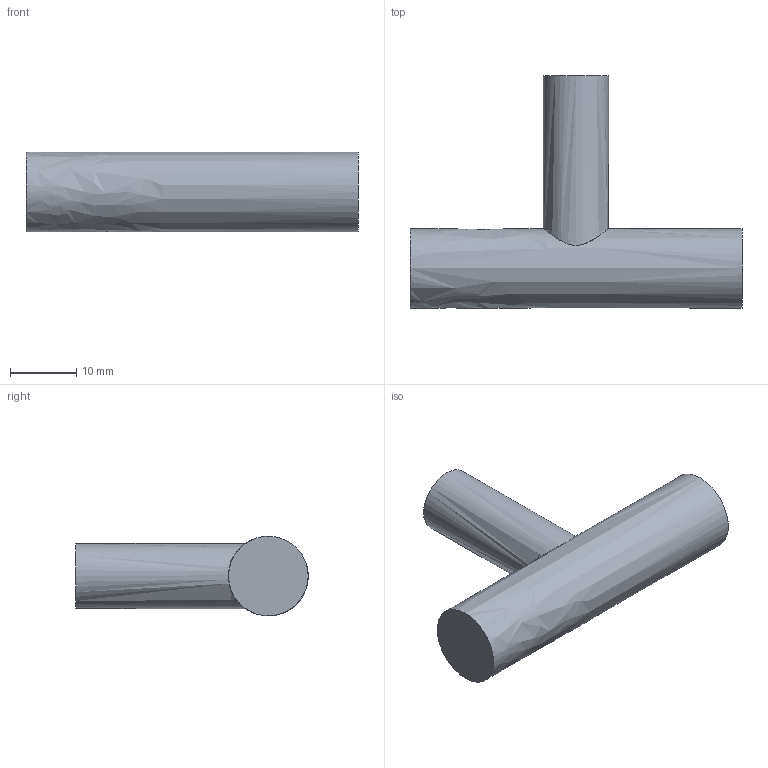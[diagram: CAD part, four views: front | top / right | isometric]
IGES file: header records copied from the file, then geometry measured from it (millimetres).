
Start section: Data from Parasolid IGES Translator 15.0.47, Copyright(c) 2006 Siemens P LM Software. All Rights Reserved.
Global section: file name: 9208061.igs; native system:  By UGS Corp.; preprocessor: XPlus GENERIC/IGES 3.0; author: Noname; organization: Noname; date: 20151222.145347; units: millimetre
Bounding box: 50 x 35 x 12 mm (x, y, z)
Surface area: 2922.2 mm2 (no closed solid volume)
Topology: 0 solids, 0 shells, 7 faces, 18 edges, 14 vertices
Faces by surface type: extrusion 4, revolution 3
